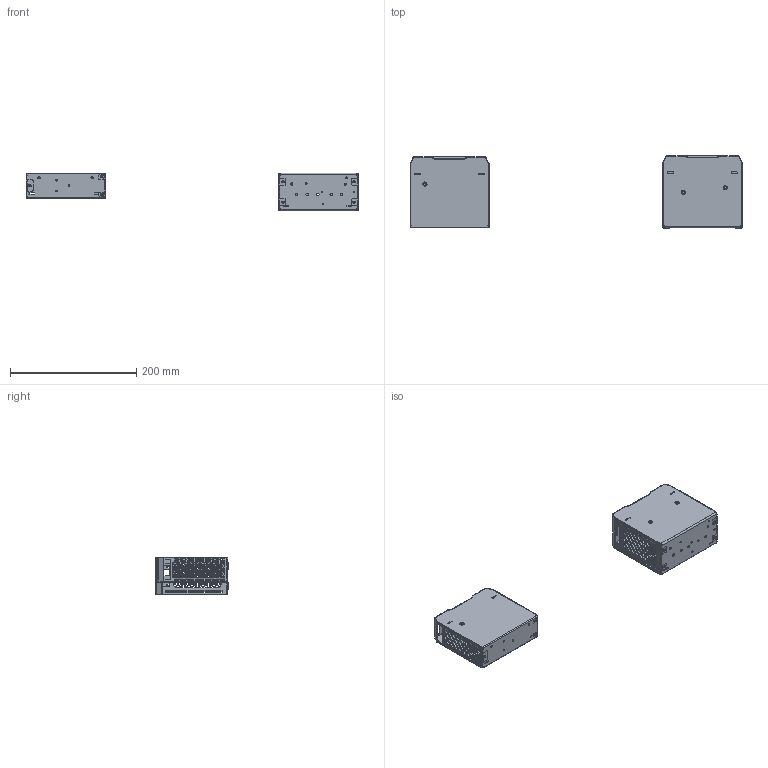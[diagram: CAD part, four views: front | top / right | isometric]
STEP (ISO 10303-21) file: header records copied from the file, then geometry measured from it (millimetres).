
FILE_DESCRIPTION(/* description */ (''),/* implementation_level */ '2;1');
FILE_NAME(/* name */ 'QLJ-2024-7-19-2A-4.stp',/* time_stamp */ '2024-09-28T14:32:22+08:00',/* author */ (''),/* organization */ (''),/* preprocessor_version */ 'ST-DEVELOPER v16.7',/* originating_system */ 'SIEMENS PLM Software NX 12.0',/* authorisation */ '');
FILE_SCHEMA (('AUTOMOTIVE_DESIGN { 1 0 10303 214 3 1 1 1 }'));
Products named in the file (1): Admi1ED48680i74e
Bounding box: 525 x 115.25 x 60 mm (x, y, z)
Volume: 118835.6 mm3; surface area: 194081.3 mm2
Topology: 4 solids, 4 shells, 2169 faces, 6399 edges, 4242 vertices
Faces by surface type: plane 1856, cylinder 305, bspline 8
Full cylindrical faces by diameter (mm): 2.5 x15, 3.2 x1, 3.5 x1, 3.6 x2, 3.8 x5, 4 x12, 4.1 x4, 4.3 x6, 6.6 x5
Entity records: 72858 total; most frequent: CARTESIAN_POINT 12870, ORIENTED_EDGE 12632, DIRECTION 11232, EDGE_CURVE 6316, LINE 5670, VECTOR 5670, VERTEX_POINT 4210, EDGE_LOOP 3168
